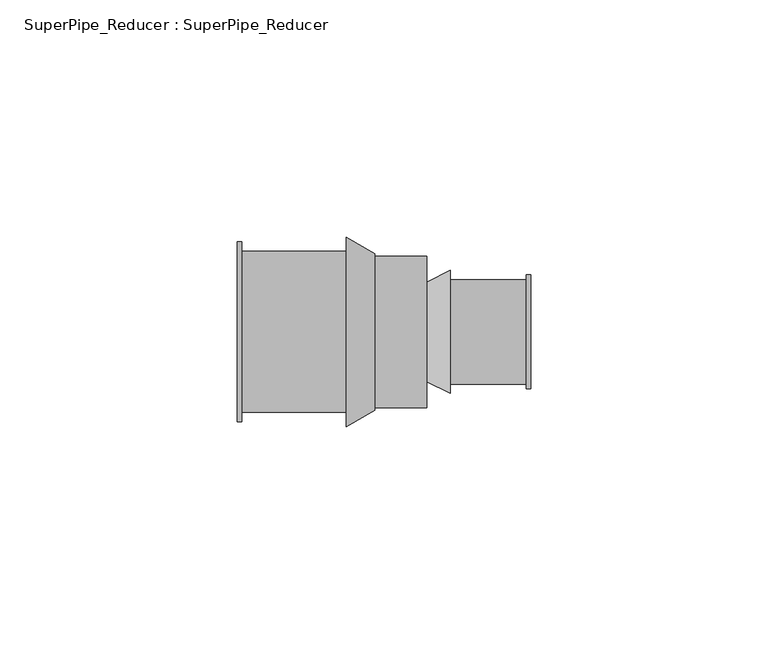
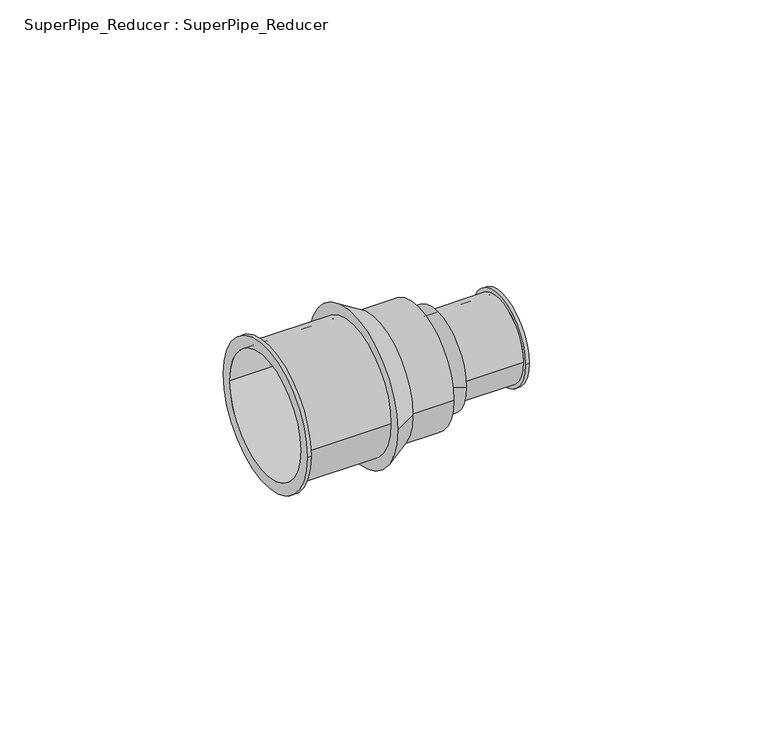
"""IFC4 building model written with IfcOpenShell, lengths in millimetres: pipe fitting geometry, SuperPipe_Reducer : SuperPipe_Reducer."""

from ifc_helpers import new_model, si_unit, point, frame, origin, origin_2d, place, context, project, spatial, polyline, circle_curve, trimmed, segment, composite_curve, outline, extrude, source, transform, mapped, element, save
from ifc_brep_helpers import plane_surface, cylinder_surface, revolved_surface, advanced_brep


def superpipe_reducer_superpipe_reducer_4bdf23cd(model_context):
    return source(origin(), model_context, "Body", "SolidModel", [
        advanced_brep(
        [(14.0, -11.0, 0.0), (14.0, 11.0, 0.0), (14.0, -10.0, 0.0), (14.0, 10.0, 0.0), (31.0, -12.0, 0.0), (31.0, 12.0, 0.0), (31.0, -10.0, 0.0), (31.0, 10.0, 0.0), (30.0, -11.0, 0.0), (30.0, 11.0, 0.0), (30.0, -10.0, 0.0), (30.0, 10.0, 0.0), (30.0, -12.0, 0.0), (30.0, 12.0, 0.0)],
        [
            (0, 1, circle_curve(frame((14.0, 0.0, 0.0), z_axis=(-1.0, 0.0, 0.0), x_axis=(0.0, 1.0, 0.0)), 11.0)),
            (1, 0, circle_curve(frame((14.0, 0.0, 0.0), z_axis=(-1.0, 0.0, 0.0), x_axis=(0.0, 1.0, 0.0)), 11.0)),
            (2, 3, circle_curve(frame((14.0, 0.0, 0.0), z_axis=(1.0, 0.0, 0.0), x_axis=(0.0, 1.0, 0.0)), 10.0)),
            (3, 2, circle_curve(frame((14.0, 0.0, 0.0), z_axis=(1.0, 0.0, 0.0), x_axis=(0.0, 1.0, 0.0)), 10.0)),
            (4, 5, circle_curve(frame((31.0, 0.0, 0.0), z_axis=(1.0, 0.0, 0.0), x_axis=(0.0, 1.0, 0.0)), 12.0)),
            (5, 4, circle_curve(frame((31.0, 0.0, 0.0), z_axis=(1.0, 0.0, 0.0), x_axis=(0.0, 1.0, 0.0)), 12.0)),
            (6, 7, circle_curve(frame((31.0, 0.0, 0.0), z_axis=(-1.0, 0.0, 0.0), x_axis=(0.0, 1.0, 0.0)), 10.0)),
            (7, 6, circle_curve(frame((31.0, 0.0, 0.0), z_axis=(-1.0, 0.0, 0.0), x_axis=(0.0, 1.0, 0.0)), 10.0)),
            (0, 8),
            (8, 9, circle_curve(frame((30.0, 0.0, 0.0), z_axis=(-1.0, 0.0, 0.0), x_axis=(0.0, 1.0, 0.0)), 11.0)),
            (9, 1),
            (9, 8, circle_curve(frame((30.0, 0.0, 0.0), z_axis=(-1.0, 0.0, 0.0), x_axis=(0.0, 1.0, 0.0)), 11.0)),
            (2, 10),
            (10, 6),
            (7, 11),
            (11, 3),
            (12, 13, circle_curve(frame((30.0, 0.0, 0.0), z_axis=(-1.0, 0.0, 0.0), x_axis=(0.0, 1.0, 0.0)), 12.0)),
            (13, 12, circle_curve(frame((30.0, 0.0, 0.0), z_axis=(-1.0, 0.0, 0.0), x_axis=(0.0, 1.0, 0.0)), 12.0)),
            (12, 4),
            (5, 13),
        ],
        [
            plane_surface(frame((14.0, 0.0, 0.0), z_axis=(-1.0, 0.0, 0.0), x_axis=(0.0, 0.0, 1.0))),
            plane_surface(frame((31.0, 0.0, 0.0), z_axis=(1.0, 0.0, 0.0), x_axis=(0.0, 0.0, 1.0))),
            cylinder_surface(frame((14.0, 0.0, 0.0), z_axis=(-1.0, 0.0, 0.0), x_axis=(0.0, 1.0, 0.0)), 11.0),
            revolved_surface(polyline([(31.0, 10.0, 0.0), (14.0, 10.0, 0.0)]), (14.0, 0.0, 0.0), (1.0, 0.0, 0.0)),
            plane_surface(frame((30.0, 0.0, 0.0), z_axis=(-1.0, 0.0, 0.0), x_axis=(0.0, 0.0, 1.0))),
            cylinder_surface(frame((30.0, 0.0, 0.0), z_axis=(-1.0, 0.0, 0.0), x_axis=(0.0, 1.0, 0.0)), 12.0),
        ],
        [
            (0, [[1, 2], [3, 4]]),
            (1, [[5, 6], [7, 8]]),
            (2, [[-1, 9, 10, 11]]),
            (2, [[-2, -11, 12, -9]]),
            (3, [[-3, 13, 14, -8, 15, 16]]),
            (3, [[-4, -16, -15, -7, -14, -13]]),
            (4, [[17, 18], [-10, -12]]),
            (5, [[-17, 19, -6, 20]]),
            (5, [[-18, -20, -5, -19]]),
        ],
    ),
        advanced_brep(
        [(-31.0, -19.0, 0.0), (-31.0, 19.0, 0.0), (-31.0, -16.0, 0.0), (-31.0, 16.0, 0.0), (-8.0, -17.0, 0.0), (-8.0, 17.0, 0.0), (-8.0, -16.0, 0.0), (-8.0, 16.0, 0.0), (-30.0, -16.0, 0.0), (-30.0, 16.0, 0.0), (-30.0, 17.0, 0.0), (-30.0, -17.0, 0.0), (-30.0, -19.0, 0.0), (-30.0, 19.0, 0.0)],
        [
            (0, 1, circle_curve(frame((-31.0, 0.0, 0.0), z_axis=(-1.0, 0.0, 0.0), x_axis=(0.0, 1.0, 0.0)), 19.0)),
            (1, 0, circle_curve(frame((-31.0, 0.0, 0.0), z_axis=(-1.0, 0.0, 0.0), x_axis=(0.0, 1.0, 0.0)), 19.0)),
            (2, 3, circle_curve(frame((-31.0, 0.0, 0.0), z_axis=(1.0, 0.0, 0.0), x_axis=(0.0, 1.0, 0.0)), 16.0)),
            (3, 2, circle_curve(frame((-31.0, 0.0, 0.0), z_axis=(1.0, 0.0, 0.0), x_axis=(0.0, 1.0, 0.0)), 16.0)),
            (4, 5, circle_curve(frame((-8.0, 0.0, 0.0), z_axis=(1.0, 0.0, 0.0), x_axis=(0.0, 1.0, 0.0)), 17.0)),
            (5, 4, circle_curve(frame((-8.0, 0.0, 0.0), z_axis=(1.0, 0.0, 0.0), x_axis=(0.0, 1.0, 0.0)), 17.0)),
            (6, 7, circle_curve(frame((-8.0, 0.0, 0.0), z_axis=(-1.0, 0.0, 0.0), x_axis=(0.0, 1.0, 0.0)), 16.0)),
            (7, 6, circle_curve(frame((-8.0, 0.0, 0.0), z_axis=(-1.0, 0.0, 0.0), x_axis=(0.0, 1.0, 0.0)), 16.0)),
            (2, 8),
            (8, 6),
            (7, 9),
            (9, 3),
            (5, 10),
            (10, 11, circle_curve(frame((-30.0, 0.0, 0.0), z_axis=(1.0, 0.0, 0.0), x_axis=(0.0, 1.0, 0.0)), 17.0)),
            (11, 4),
            (11, 10, circle_curve(frame((-30.0, 0.0, 0.0), z_axis=(1.0, 0.0, 0.0), x_axis=(0.0, 1.0, 0.0)), 17.0)),
            (12, 13, circle_curve(frame((-30.0, 0.0, 0.0), z_axis=(1.0, 0.0, 0.0), x_axis=(0.0, 1.0, 0.0)), 19.0)),
            (13, 12, circle_curve(frame((-30.0, 0.0, 0.0), z_axis=(1.0, 0.0, 0.0), x_axis=(0.0, 1.0, 0.0)), 19.0)),
            (0, 12),
            (13, 1),
        ],
        [
            plane_surface(frame((-31.0, 0.0, 0.0), z_axis=(-1.0, 0.0, 0.0), x_axis=(0.0, 0.0, 1.0))),
            plane_surface(frame((-8.0, 0.0, 0.0), z_axis=(1.0, 0.0, 0.0), x_axis=(0.0, 0.0, 1.0))),
            revolved_surface(polyline([(-8.0, 16.0, 0.0), (-31.0, 16.0, 0.0)]), (-31.0, 0.0, 0.0), (1.0, 0.0, 0.0)),
            cylinder_surface(frame((-31.0, 0.0, 0.0), z_axis=(-1.0, 0.0, 0.0), x_axis=(0.0, 1.0, 0.0)), 17.0),
            plane_surface(frame((-30.0, 0.0, 0.0), z_axis=(1.0, 0.0, 0.0), x_axis=(0.0, 0.0, 1.0))),
            cylinder_surface(frame((-31.0, 0.0, 0.0), z_axis=(-1.0, 0.0, 0.0), x_axis=(0.0, 1.0, 0.0)), 19.0),
        ],
        [
            (0, [[1, 2], [3, 4]]),
            (1, [[5, 6], [7, 8]]),
            (2, [[-3, 9, 10, -8, 11, 12]]),
            (2, [[-4, -12, -11, -7, -10, -9]]),
            (3, [[-6, 13, 14, 15]]),
            (3, [[-5, -15, 16, -13]]),
            (4, [[17, 18], [-14, -16]]),
            (5, [[-1, 19, -18, 20]]),
            (5, [[-2, -20, -17, -19]]),
        ],
    ),
        advanced_brep(
        [(14.0, -13.0, 0.0), (14.0, 13.0, 0.0), (14.0, 10.0, 0.0), (14.0, -10.0, 0.0), (9.0, -10.5, 0.0), (9.0, 10.5, 0.0), (9.0, -10.0, 0.0), (9.0, 10.0, 0.0)],
        [
            (0, 1, circle_curve(frame((14.0, 0.0, 0.0), z_axis=(1.0, 0.0, 0.0), x_axis=(0.0, -1.0, 0.0)), 13.0)),
            (1, 0, circle_curve(frame((14.0, 0.0, 0.0), z_axis=(1.0, 0.0, 0.0), x_axis=(0.0, 1.0, 0.0)), 13.0)),
            (2, 3, circle_curve(frame((14.0, 0.0, 0.0), z_axis=(-1.0, 0.0, 0.0), x_axis=(0.0, 1.0, 0.0)), 10.0)),
            (3, 2, circle_curve(frame((14.0, 0.0, 0.0), z_axis=(-1.0, 0.0, 0.0), x_axis=(0.0, 1.0, 0.0)), 10.0)),
            (4, 5, circle_curve(frame((9.0, 0.0, 0.0), z_axis=(-1.0, 0.0, 0.0), x_axis=(0.0, 1.0, 0.0)), 10.5)),
            (5, 4, circle_curve(frame((9.0, 0.0, 0.0), z_axis=(-1.0, 0.0, 0.0), x_axis=(0.0, -1.0, 0.0)), 10.5)),
            (6, 7, circle_curve(frame((9.0, 0.0, 0.0), z_axis=(1.0, 0.0, 0.0), x_axis=(0.0, 1.0, 0.0)), 10.0)),
            (7, 6, circle_curve(frame((9.0, 0.0, 0.0), z_axis=(1.0, 0.0, 0.0), x_axis=(0.0, 1.0, 0.0)), 10.0)),
            (0, 4),
            (5, 1),
            (2, 7),
            (6, 3),
        ],
        [
            plane_surface(frame((14.0, 0.0, 0.0), z_axis=(1.0, 0.0, 0.0), x_axis=(0.0, 0.0, -1.0))),
            plane_surface(frame((9.0, 0.0, 0.0), z_axis=(-1.0, 0.0, 0.0), x_axis=(0.0, 0.0, -1.0))),
            revolved_surface(polyline([(9.0, 10.5, 0.0), (14.0, 13.0, 0.0)]), (-12.0, 0.0, 0.0), (1.0, 0.0, 0.0)),
            revolved_surface(polyline([(9.0, -10.5, 0.0), (14.0, -13.0, 0.0)]), (-12.0, 0.0, 0.0), (1.0, 0.0, 0.0)),
            revolved_surface(polyline([(14.0, 10.0, 0.0), (9.0, 10.0, 0.0)]), (9.0, 0.0, 0.0), (1.0, 0.0, 0.0)),
        ],
        [
            (0, [[1, 2], [3, 4]]),
            (1, [[5, 6], [7, 8]]),
            (2, [[-1, 9, -6, 10]]),
            (3, [[-2, -10, -5, -9]]),
            (4, [[11, -7, 12, -3]]),
            (4, [[-11, -4, -12, -8]]),
        ],
    ),
        advanced_brep(
        [(-2.0, -16.5, 0.0), (-2.0, 16.5, 0.0), (-2.0, 16.0, 0.0), (-2.0, -16.0, 0.0), (-8.0, -20.0, 0.0), (-8.0, 20.0, 0.0), (-8.0, -16.0, 0.0), (-8.0, 16.0, 0.0)],
        [
            (0, 1, circle_curve(frame((-2.0, 0.0, 0.0), z_axis=(1.0, 0.0, 0.0), x_axis=(0.0, -1.0, 0.0)), 16.5)),
            (1, 0, circle_curve(frame((-2.0, 0.0, 0.0), z_axis=(1.0, 0.0, 0.0), x_axis=(0.0, 1.0, 0.0)), 16.5)),
            (2, 3, circle_curve(frame((-2.0, 0.0, 0.0), z_axis=(-1.0, 0.0, 0.0), x_axis=(0.0, 1.0, 0.0)), 16.0)),
            (3, 2, circle_curve(frame((-2.0, 0.0, 0.0), z_axis=(-1.0, 0.0, 0.0), x_axis=(0.0, 1.0, 0.0)), 16.0)),
            (4, 5, circle_curve(frame((-8.0, 0.0, 0.0), z_axis=(-1.0, 0.0, 0.0), x_axis=(0.0, 1.0, 0.0)), 20.0)),
            (5, 4, circle_curve(frame((-8.0, 0.0, 0.0), z_axis=(-1.0, 0.0, 0.0), x_axis=(0.0, -1.0, 0.0)), 20.0)),
            (6, 7, circle_curve(frame((-8.0, 0.0, 0.0), z_axis=(1.0, 0.0, 0.0), x_axis=(0.0, 1.0, 0.0)), 16.0)),
            (7, 6, circle_curve(frame((-8.0, 0.0, 0.0), z_axis=(1.0, 0.0, 0.0), x_axis=(0.0, 1.0, 0.0)), 16.0)),
            (0, 4),
            (5, 1),
            (2, 7),
            (6, 3),
        ],
        [
            plane_surface(frame((-2.0, 0.0, 0.0), z_axis=(1.0, 0.0, 0.0), x_axis=(0.0, 0.0, -1.0))),
            plane_surface(frame((-8.0, 0.0, 0.0), z_axis=(-1.0, 0.0, 0.0), x_axis=(0.0, 0.0, -1.0))),
            revolved_surface(polyline([(-2.0, -16.500000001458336, 0.0), (-7.9999999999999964, -20.0, 0.0)]), (26.2857143, 0.0, 0.0), (-1.0, 0.0, 0.0)),
            revolved_surface(polyline([(-2.0, 16.500000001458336, 0.0), (-7.9999999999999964, 20.0, 0.0)]), (26.2857143, 0.0, 0.0), (-1.0, 0.0, 0.0)),
            revolved_surface(polyline([(-2.0, 16.0, 0.0), (-8.0, 16.0, 0.0)]), (-8.0, 0.0, 0.0), (1.0, 0.0, 0.0)),
        ],
        [
            (0, [[1, 2], [3, 4]]),
            (1, [[5, 6], [7, 8]]),
            (2, [[-1, 9, -6, 10]]),
            (3, [[-2, -10, -5, -9]]),
            (4, [[11, -7, 12, -3]]),
            (4, [[-11, -4, -12, -8]]),
        ],
    ),
        extrude(outline(composite_curve([segment(trimmed(circle_curve(origin_2d(), 16.0), [point((-16.0, 0.0))], [point((16.0, 0.0))], False, "CARTESIAN"), True, "CONTINUOUS"), segment(trimmed(circle_curve(origin_2d(), 16.0), [point((16.0, 0.0))], [point((-16.0, 0.0))], False, "CARTESIAN"), True, "CONTINUOUS")], self_intersect=False)), frame((-2.0, 0.0, 0.0), z_axis=(1.0, 0.0, 0.0), x_axis=(0.0, 1.0, 0.0)), (0.0, 0.0, 1.0), 11.0),
    ])


if __name__ == "__main__":
    model = new_model("IFC4")
    model_context = context("Model", 3, world=origin())
    ifc_project = project(units=[si_unit("LENGTHUNIT", "METRE", prefix="MILLI")], contexts=[model_context])
    site = spatial("IfcSite", under=ifc_project)
    building = spatial("IfcBuilding", under=site)
    placement = place(None, origin())
    superpipe_reducer_superpipe_reducer_shape = superpipe_reducer_superpipe_reducer_4bdf23cd(model_context)
    element("IfcPipeFitting", 1, ObjectType="SuperPipe_Reducer : SuperPipe_Reducer", at=placement, inside=building, context=model_context, shape_type="MappedRepresentation", body=[
        mapped(superpipe_reducer_superpipe_reducer_shape, transform((0.0, 0.0, 0.0), x_axis=(1.0, 0.0, 0.0), y_axis=(0.0, 1.0, 0.0), z_axis=(0.0, 0.0, 1.0))),
    ])
    save(model, "model.ifc")
